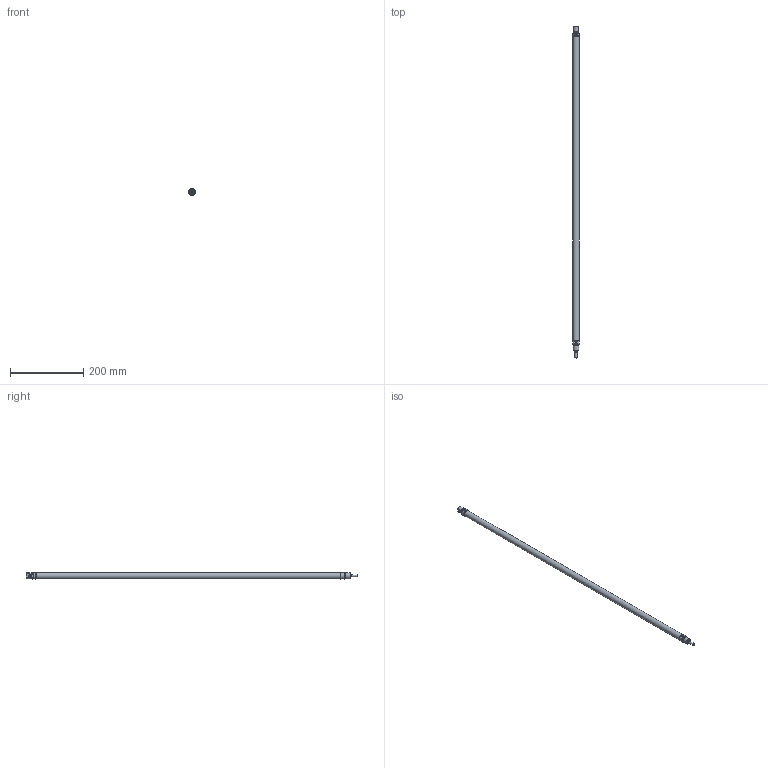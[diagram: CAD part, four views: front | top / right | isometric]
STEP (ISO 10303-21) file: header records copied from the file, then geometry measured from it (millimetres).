
FILE_DESCRIPTION((''),'2;1');
FILE_NAME('T:\Archivio Inventor\- 00 NUOVI STP PER SITO CON STELO CHE SI MUOVE\SERIE O\ODM\ODM016.---.GS.M\ODM016.800.GS.M.stp','2017-06-12T15:35:06',('carlo.corazza'),(''),'Autodesk Inventor 2013','Autodesk Inventor 2013','');
FILE_SCHEMA(('AUTOMOTIVE_DESIGN { 1 0 10303 214 1 1 1 1 }'));
Length unit declared in the file: millimetre
Products named in the file (5): ODM016..GS.M; CORPO-800; STELO-800; TA; TP
Assembly tree (4 placements, depth 2):
  ODM016..GS.M
    CORPO-800
    STELO-800
    TA
    TP
Bounding box: 18.95 x 909 x 18.14 mm (x, y, z)
Volume: 63078.3 mm3; surface area: 108407.6 mm2
Topology: 4 solids, 4 shells, 98 faces, 204 edges, 129 vertices
Faces by surface type: plane 40, cylinder 28, cone 23, torus 7
Full cylindrical faces by diameter (mm): 4 x1, 4.134 x2, 5.9 x1, 6 x2, 6.5 x1, 7.1 x1, 9 x1, 9.1 x1, 11.1 x1, 11.2 x1, 13.7 x1, 16 x3, 17.2 x2, 17.27 x1
Entity records: 2545 total; most frequent: DIRECTION 444, CARTESIAN_POINT 422, ORIENTED_EDGE 296, AXIS2_PLACEMENT_3D 198, EDGE_LOOP 162, EDGE_CURVE 148, VERTEX_POINT 118, FACE_OUTER_BOUND 98
